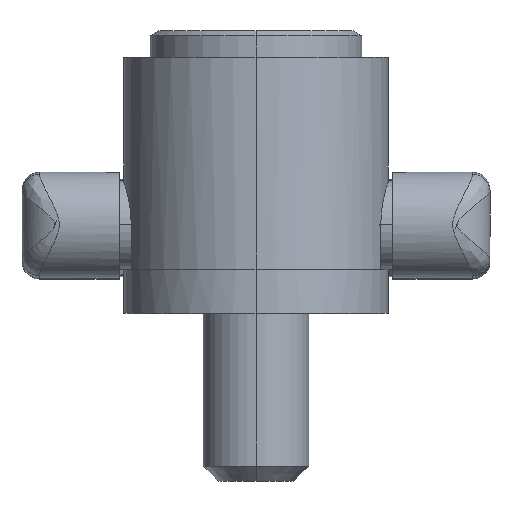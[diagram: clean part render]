
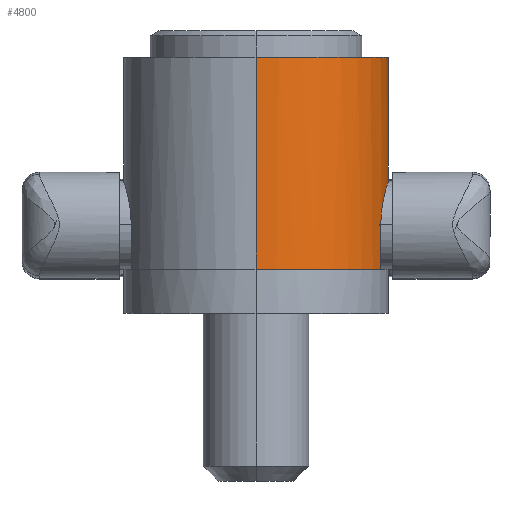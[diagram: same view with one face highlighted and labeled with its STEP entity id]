
A CAD part, top view. The second image highlights one B-rep face of the part: STEP entity #4800.
In plain terms, the highlighted cylindrical face has radius 15 mm (diameter 30 mm), a partial arc.
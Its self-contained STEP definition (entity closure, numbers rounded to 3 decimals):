
#3692 = LINE ( 'NONE', #3706, #3705 ) ;
#3704 = DIRECTION ( 'NONE',  ( 0., -1., 0. ) ) ;
#3705 = VECTOR ( 'NONE', #3704, 1000. ) ;
#3706 = CARTESIAN_POINT ( 'NONE',  ( 14.142, 32., -5. ) ) ;
#3710 = CARTESIAN_POINT ( 'NONE',  ( 14.837, 14.49, 2.225 ) ) ;
#3711 = CARTESIAN_POINT ( 'NONE',  ( 14.791, 14.336, 2.512 ) ) ;
#3712 = CARTESIAN_POINT ( 'NONE',  ( 14.688, 13.97, 3.057 ) ) ;
#3713 = CARTESIAN_POINT ( 'NONE',  ( 14.633, 13.764, 3.307 ) ) ;
#3714 = CARTESIAN_POINT ( 'NONE',  ( 14.522, 13.306, 3.765 ) ) ;
#3715 = CARTESIAN_POINT ( 'NONE',  ( 14.465, 13.052, 3.974 ) ) ;
#3716 = CARTESIAN_POINT ( 'NONE',  ( 14.361, 12.51, 4.336 ) ) ;
#3717 = CARTESIAN_POINT ( 'NONE',  ( 14.313, 12.224, 4.49 ) ) ;
#3718 = CARTESIAN_POINT ( 'NONE',  ( 14.232, 11.62, 4.741 ) ) ;
#3719 = CARTESIAN_POINT ( 'NONE',  ( 14.198, 11.302, 4.839 ) ) ;
#3722 = CARTESIAN_POINT ( 'NONE',  ( 14.154, 10.66, 4.967 ) ) ;
#3723 = CARTESIAN_POINT ( 'NONE',  ( 14.142, 10.333, 5. ) ) ;
#3724 = CARTESIAN_POINT ( 'NONE',  ( 14.142, 10., 5. ) ) ;
#3725 = B_SPLINE_CURVE_WITH_KNOTS ( 'NONE', 3,
 ( #3724, #3723, #3722, #3719, #3718, #3717, #3716, #3715, #3714, #3713, #3712, #3711, #3710, #3734, #3972, #3971, #3970, #3969, #3872, #3871, #3870, #3982, #3981, #3980, #3979, #3869, #3868, #3867, #3866, #3865, #3964, #3963, #3962, #3961, #3960, #3959 ),
 .UNSPECIFIED., .F., .F.,
 ( 4, 2, 2, 2, 2, 2, 2, 2, 2, 2, 2, 2, 2, 2, 2, 2, 2, 4 ),
 ( 0., 0.001, 0.002, 0.003, 0.004, 0.005, 0.006, 0.006, 0.007, 0.008, 0.009, 0.01, 0.011, 0.012, 0.013, 0.014, 0.015, 0.016 ),
 .UNSPECIFIED. ) ;
#3734 = CARTESIAN_POINT ( 'NONE',  ( 14.895, 14.677, 1.774 ) ) ;
#3865 = CARTESIAN_POINT ( 'NONE',  ( 14.362, 12.517, -4.332 ) ) ;
#3866 = CARTESIAN_POINT ( 'NONE',  ( 14.466, 13.057, -3.97 ) ) ;
#3867 = CARTESIAN_POINT ( 'NONE',  ( 14.522, 13.306, -3.765 ) ) ;
#3868 = CARTESIAN_POINT ( 'NONE',  ( 14.633, 13.766, -3.305 ) ) ;
#3869 = CARTESIAN_POINT ( 'NONE',  ( 14.689, 13.975, -3.05 ) ) ;
#3870 = CARTESIAN_POINT ( 'NONE',  ( 14.989, 14.967, -0.657 ) ) ;
#3871 = CARTESIAN_POINT ( 'NONE',  ( 15., 15., -0.323 ) ) ;
#3872 = CARTESIAN_POINT ( 'NONE',  ( 15., 15., 0.334 ) ) ;
#3959 = CARTESIAN_POINT ( 'NONE',  ( 14.142, 10., -5. ) ) ;
#3960 = CARTESIAN_POINT ( 'NONE',  ( 14.142, 10.333, -5. ) ) ;
#3961 = CARTESIAN_POINT ( 'NONE',  ( 14.154, 10.665, -4.967 ) ) ;
#3962 = CARTESIAN_POINT ( 'NONE',  ( 14.199, 11.312, -4.836 ) ) ;
#3963 = CARTESIAN_POINT ( 'NONE',  ( 14.232, 11.624, -4.74 ) ) ;
#3964 = CARTESIAN_POINT ( 'NONE',  ( 14.313, 12.225, -4.489 ) ) ;
#3965 = DIRECTION ( 'NONE',  ( 0., -1., 0. ) ) ;
#3966 = VECTOR ( 'NONE', #3965, 1000. ) ;
#3967 = CARTESIAN_POINT ( 'NONE',  ( 0., 32., 15. ) ) ;
#3968 = LINE ( 'NONE', #3967, #3966 ) ;
#3969 = CARTESIAN_POINT ( 'NONE',  ( 14.989, 14.967, 0.66 ) ) ;
#3970 = CARTESIAN_POINT ( 'NONE',  ( 14.957, 14.87, 1.145 ) ) ;
#3971 = CARTESIAN_POINT ( 'NONE',  ( 14.944, 14.829, 1.306 ) ) ;
#3972 = CARTESIAN_POINT ( 'NONE',  ( 14.913, 14.733, 1.621 ) ) ;
#3979 = CARTESIAN_POINT ( 'NONE',  ( 14.791, 14.336, -2.511 ) ) ;
#3980 = CARTESIAN_POINT ( 'NONE',  ( 14.838, 14.491, -2.222 ) ) ;
#3981 = CARTESIAN_POINT ( 'NONE',  ( 14.916, 14.744, -1.614 ) ) ;
#3982 = CARTESIAN_POINT ( 'NONE',  ( 14.947, 14.839, -1.301 ) ) ;
#3984 = CARTESIAN_POINT ( 'NONE',  ( 14.142, 10., 5. ) ) ;
#3985 = CARTESIAN_POINT ( 'NONE',  ( 14.142, 5., 5. ) ) ;
#3986 = DIRECTION ( 'NONE',  ( 0., 0., -1. ) ) ;
#3987 = DIRECTION ( 'NONE',  ( 0., -1., 0. ) ) ;
#3988 = CARTESIAN_POINT ( 'NONE',  ( 0., 5., 0. ) ) ;
#3989 = AXIS2_PLACEMENT_3D ( 'NONE', #3988, #3987, #3986 ) ;
#3990 = CIRCLE ( 'NONE', #3989, 15. ) ;
#4002 = DIRECTION ( 'NONE',  ( 0., -1., 0. ) ) ;
#4003 = VECTOR ( 'NONE', #4002, 1000. ) ;
#4004 = CARTESIAN_POINT ( 'NONE',  ( 0., 32., -15. ) ) ;
#4005 = LINE ( 'NONE', #4004, #4003 ) ;
#4023 = DIRECTION ( 'NONE',  ( 0., 0., 1. ) ) ;
#4024 = DIRECTION ( 'NONE',  ( 0., 1., 0. ) ) ;
#4025 = CARTESIAN_POINT ( 'NONE',  ( 0., 29., 0. ) ) ;
#4026 = AXIS2_PLACEMENT_3D ( 'NONE', #4025, #4024, #4023 ) ;
#4075 = CIRCLE ( 'NONE', #4026, 15. ) ;
#4759 = VERTEX_POINT ( 'NONE', #5739 ) ;
#4761 = VERTEX_POINT ( 'NONE', #5889 ) ;
#4782 = ORIENTED_EDGE ( 'NONE', *, *, #4978, .T. ) ;
#4799 = EDGE_LOOP ( 'NONE', ( #5096, #4782, #4977, #4981, #4974, #4976, #4811, #5092 ) ) ;
#4800 = ADVANCED_FACE ( 'NONE', ( #6397 ), #6396, .T. ) ;
#4808 = VERTEX_POINT ( 'NONE', #6372 ) ;
#4809 = VERTEX_POINT ( 'NONE', #6371 ) ;
#4810 = EDGE_CURVE ( 'NONE', #4980, #4982, #6370, .T. ) ;
#4811 = ORIENTED_EDGE ( 'NONE', *, *, #4812, .F. ) ;
#4812 = EDGE_CURVE ( 'NONE', #4813, #4808, #6366, .T. ) ;
#4813 = VERTEX_POINT ( 'NONE', #6361 ) ;
#4822 = VERTEX_POINT ( 'NONE', #6346 ) ;
#4973 = EDGE_CURVE ( 'NONE', #4822, #4808, #3692, .T. ) ;
#4974 = ORIENTED_EDGE ( 'NONE', *, *, #4975, .T. ) ;
#4975 = EDGE_CURVE ( 'NONE', #4982, #4822, #3725, .T. ) ;
#4976 = ORIENTED_EDGE ( 'NONE', *, *, #4973, .T. ) ;
#4977 = ORIENTED_EDGE ( 'NONE', *, *, #4979, .F. ) ;
#4978 = EDGE_CURVE ( 'NONE', #4761, #4809, #3968, .T. ) ;
#4979 = EDGE_CURVE ( 'NONE', #4980, #4809, #3990, .T. ) ;
#4980 = VERTEX_POINT ( 'NONE', #3985 ) ;
#4981 = ORIENTED_EDGE ( 'NONE', *, *, #4810, .T. ) ;
#4982 = VERTEX_POINT ( 'NONE', #3984 ) ;
#5092 = ORIENTED_EDGE ( 'NONE', *, *, #5093, .F. ) ;
#5093 = EDGE_CURVE ( 'NONE', #4759, #4813, #4005, .T. ) ;
#5094 = EDGE_CURVE ( 'NONE', #4761, #4759, #4075, .T. ) ;
#5096 = ORIENTED_EDGE ( 'NONE', *, *, #5094, .F. ) ;
#5739 = CARTESIAN_POINT ( 'NONE',  ( 0., 29., -15. ) ) ;
#5889 = CARTESIAN_POINT ( 'NONE',  ( 0., 29., 15. ) ) ;
#6346 = CARTESIAN_POINT ( 'NONE',  ( 14.142, 10., -5. ) ) ;
#6361 = CARTESIAN_POINT ( 'NONE',  ( 0., 5., -15. ) ) ;
#6362 = DIRECTION ( 'NONE',  ( 0., 0., -1. ) ) ;
#6363 = DIRECTION ( 'NONE',  ( 0., -1., 0. ) ) ;
#6364 = CARTESIAN_POINT ( 'NONE',  ( 0., 5., 0. ) ) ;
#6365 = AXIS2_PLACEMENT_3D ( 'NONE', #6364, #6363, #6362 ) ;
#6366 = CIRCLE ( 'NONE', #6365, 15. ) ;
#6367 = DIRECTION ( 'NONE',  ( 0., 1., 0. ) ) ;
#6368 = VECTOR ( 'NONE', #6367, 1000. ) ;
#6369 = CARTESIAN_POINT ( 'NONE',  ( 14.142, 32., 5. ) ) ;
#6370 = LINE ( 'NONE', #6369, #6368 ) ;
#6371 = CARTESIAN_POINT ( 'NONE',  ( 0., 5., 15. ) ) ;
#6372 = CARTESIAN_POINT ( 'NONE',  ( 14.142, 5., -5. ) ) ;
#6391 = DIRECTION ( 'NONE',  ( 0., 0., -1. ) ) ;
#6392 = DIRECTION ( 'NONE',  ( 0., -1., 0. ) ) ;
#6393 = AXIS2_PLACEMENT_3D ( 'NONE', #6395, #6392, #6391 ) ;
#6395 = CARTESIAN_POINT ( 'NONE',  ( 0., 32., 0. ) ) ;
#6396 = CYLINDRICAL_SURFACE ( 'NONE', #6393, 15. ) ;
#6397 = FACE_OUTER_BOUND ( 'NONE', #4799, .T. ) ;
